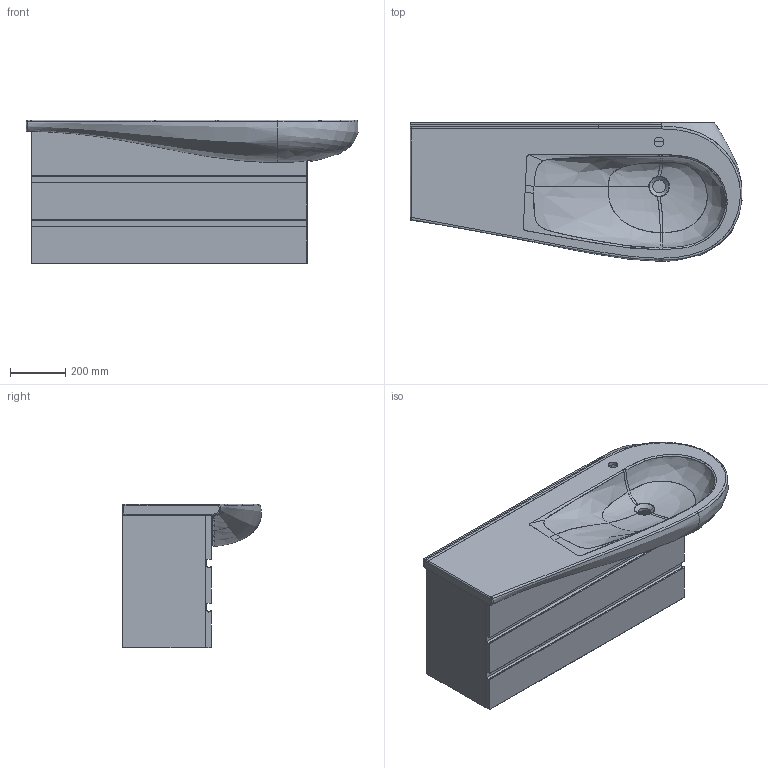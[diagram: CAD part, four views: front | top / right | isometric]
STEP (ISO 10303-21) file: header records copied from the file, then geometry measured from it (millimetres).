
FILE_DESCRIPTION(/* description */ (''),/* implementation_level */ '2;1');
FILE_NAME(/* name */ 'C:\Users\User33\Desktop\Alessi One noce\3D01_424500.stp',/* time_stamp */ '2018-05-18T17:25:39+02:00',/* author */ ('User33'),/* organization */ (''),/* preprocessor_version */ 'ST-DEVELOPER v16.13',/* originating_system */ 'Autodesk Inventor 2018',/* authorisation */ '');
FILE_SCHEMA (('AUTOMOTIVE_DESIGN { 1 0 10303 214 3 1 1 }'));
Products named in the file (13): Assieme2; Parte36; Parte38; Parte40; Parte42; Parte44; Parte46; Parte48; Parte62; Parte64; Parte66; Parte68; Parte70
Assembly tree (12 placements, depth 2):
  Assieme2
    Parte36
    Parte38
    Parte40
    Parte42
    Parte44
    Parte46
    Parte48
    Parte62
    Parte64
    Parte66
    Parte68
    Parte70
Bounding box: 1196.65 x 500.24 x 518 mm (x, y, z)
Volume: 29105135.9 mm3; surface area: 5906816.4 mm2
Topology: 11 solids, 1243 shells, 1357 faces, 6632 edges, 6430 vertices
Faces by surface type: cylinder 518, plane 503, bspline 285, torus 26, sphere 20, cone 5
Full cylindrical faces by diameter (mm): 5 x4, 6 x4, 7 x96
Entity records: 142656 total; most frequent: CARTESIAN_POINT 90751, DIRECTION 10088, ORIENTED_EDGE 6788, EDGE_CURVE 6511, VERTEX_POINT 6424, AXIS2_PLACEMENT_3D 3512, LINE 3064, VECTOR 3064
